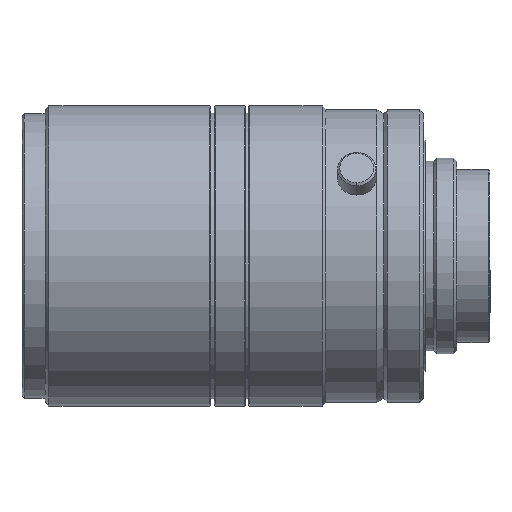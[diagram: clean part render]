
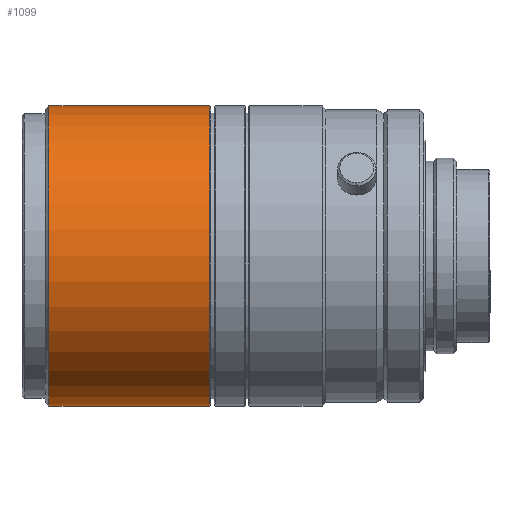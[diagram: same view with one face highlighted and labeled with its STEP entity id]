
A CAD part, top view. The second image highlights one B-rep face of the part: STEP entity #1099.
In plain terms, the highlighted cylindrical face has radius 19.5 mm (diameter 39 mm), a partial arc.
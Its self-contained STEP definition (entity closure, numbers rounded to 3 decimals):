
#102 = CYLINDRICAL_SURFACE ( 'NONE', #120, 19.5 ) ;
#115 = DIRECTION ( 'NONE',  ( 1., 0., 0. ) ) ;
#120 = AXIS2_PLACEMENT_3D ( 'NONE', #2547, #1807, #2097 ) ;
#231 = CARTESIAN_POINT ( 'NONE',  ( -45.626, 19.5, 0. ) ) ;
#443 = CARTESIAN_POINT ( 'NONE',  ( -66.526, -19.5, 0. ) ) ;
#647 = DIRECTION ( 'NONE',  ( 1., 0., 0. ) ) ;
#652 = VERTEX_POINT ( 'NONE', #2769 ) ;
#892 = VECTOR ( 'NONE', #647, 1000. ) ;
#959 = CIRCLE ( 'NONE', #3333, 19.5 ) ;
#1091 = EDGE_CURVE ( 'NONE', #2241, #1553, #2893, .T. ) ;
#1099 = ADVANCED_FACE ( 'NONE', ( #2985 ), #102, .T. ) ;
#1384 = EDGE_LOOP ( 'NONE', ( #1918, #3237, #3145, #1671 ) ) ;
#1465 = CARTESIAN_POINT ( 'NONE',  ( -66.526, 0., 0. ) ) ;
#1475 = DIRECTION ( 'NONE',  ( 1., 0., 0. ) ) ;
#1485 = DIRECTION ( 'NONE',  ( 0., 1., 0. ) ) ;
#1512 = CARTESIAN_POINT ( 'NONE',  ( 0., -19.5, 0. ) ) ;
#1553 = VERTEX_POINT ( 'NONE', #3376 ) ;
#1671 = ORIENTED_EDGE ( 'NONE', *, *, #1850, .F. ) ;
#1694 = CARTESIAN_POINT ( 'NONE',  ( -45.626, 0., 0. ) ) ;
#1807 = DIRECTION ( 'NONE',  ( 1., 0., 0. ) ) ;
#1850 = EDGE_CURVE ( 'NONE', #652, #3202, #1982, .T. ) ;
#1918 = ORIENTED_EDGE ( 'NONE', *, *, #1972, .T. ) ;
#1953 = DIRECTION ( 'NONE',  ( 0., 1., 0. ) ) ;
#1972 = EDGE_CURVE ( 'NONE', #652, #2241, #959, .T. ) ;
#1982 = LINE ( 'NONE', #2339, #3392 ) ;
#2097 = DIRECTION ( 'NONE',  ( 0., 1., 0. ) ) ;
#2147 = CIRCLE ( 'NONE', #2366, 19.5 ) ;
#2160 = DIRECTION ( 'NONE',  ( 1., 0., 0. ) ) ;
#2241 = VERTEX_POINT ( 'NONE', #443 ) ;
#2339 = CARTESIAN_POINT ( 'NONE',  ( 0., 19.5, 0. ) ) ;
#2366 = AXIS2_PLACEMENT_3D ( 'NONE', #1694, #115, #1953 ) ;
#2547 = CARTESIAN_POINT ( 'NONE',  ( 0., 0., 0. ) ) ;
#2741 = EDGE_CURVE ( 'NONE', #3202, #1553, #2147, .T. ) ;
#2769 = CARTESIAN_POINT ( 'NONE',  ( -66.526, 19.5, 0. ) ) ;
#2893 = LINE ( 'NONE', #1512, #892 ) ;
#2985 = FACE_OUTER_BOUND ( 'NONE', #1384, .T. ) ;
#3145 = ORIENTED_EDGE ( 'NONE', *, *, #2741, .F. ) ;
#3202 = VERTEX_POINT ( 'NONE', #231 ) ;
#3237 = ORIENTED_EDGE ( 'NONE', *, *, #1091, .T. ) ;
#3333 = AXIS2_PLACEMENT_3D ( 'NONE', #1465, #1475, #1485 ) ;
#3376 = CARTESIAN_POINT ( 'NONE',  ( -45.626, -19.5, 0. ) ) ;
#3392 = VECTOR ( 'NONE', #2160, 1000. ) ;
